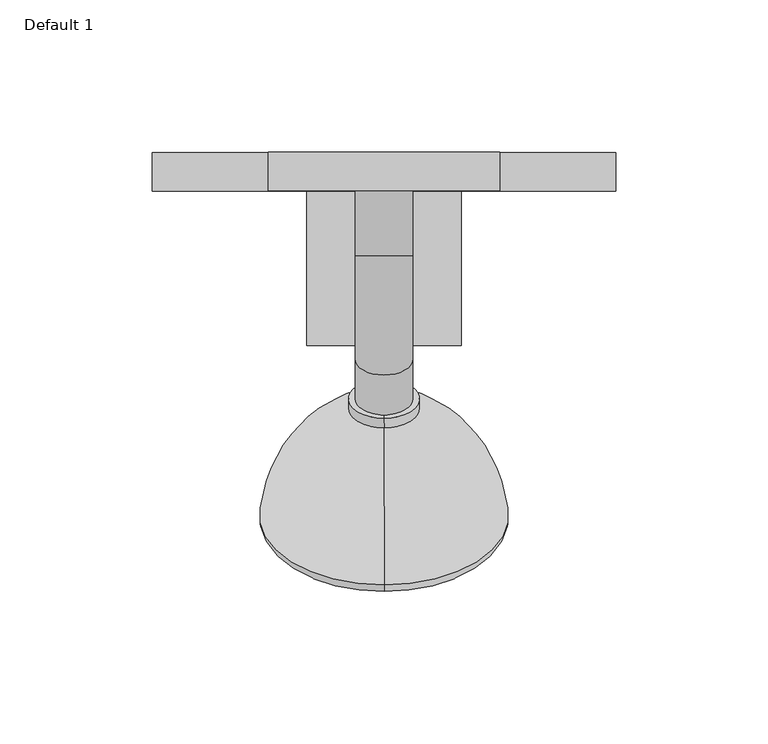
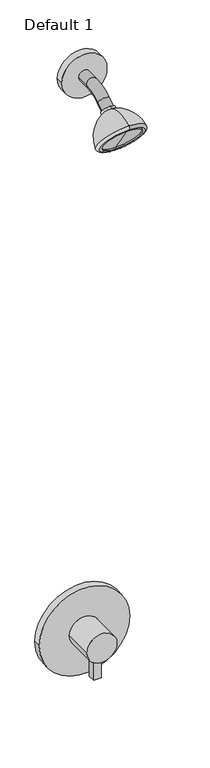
"""IFC4 building model written with IfcOpenShell, lengths in millimetres: flow terminal geometry, Bath-Showerhead : Default 1."""

from ifc_helpers import new_model, si_unit, point, frame, origin, place, context, project, spatial, polyline, circle_curve, ellipse_curve, trimmed, source, transform, mapped, element, save
from ifc_brep_helpers import plane_surface, cylinder_surface, revolved_surface, advanced_brep


def default_1_a9700879(model_context):
    return source(origin(), model_context, "Body", "AdvancedBrep", [
        advanced_brep(
        [(-76.2, -12.7, 838.2), (76.2, -12.7, 838.2), (25.4, -12.7, 838.2), (-25.4, -12.7, 838.2), (-76.2, 0.0, 838.2), (76.2, 0.0, 838.2), (-25.4, -63.5, 838.2), (25.4, -63.5, 838.2), (-6.35, -50.8, 813.6065558), (6.35, -50.8, 813.6065558), (6.35, -38.1, 813.6065558), (-6.35, -38.1, 813.6065558), (-6.35, -50.8, 775.0182977), (6.35, -50.8, 775.0182977), (-6.35, -38.1, 775.0182977), (6.35, -38.1, 775.0182977)],
        [
            (0, 1, circle_curve(frame((0.0, -12.7, 838.2), z_axis=(0.0, -1.0, 0.0), x_axis=(1.0, 0.0, 0.0)), 76.2)),
            (1, 0, circle_curve(frame((0.0, -12.7, 838.2), z_axis=(0.0, -1.0, 0.0), x_axis=(1.0, 0.0, 0.0)), 76.2)),
            (2, 3, circle_curve(frame((0.0, -12.7, 838.2), z_axis=(0.0, 1.0, 0.0), x_axis=(1.0, 0.0, 0.0)), 25.4)),
            (3, 2, circle_curve(frame((0.0, -12.7, 838.2), z_axis=(0.0, 1.0, 0.0), x_axis=(1.0, 0.0, 0.0)), 25.4)),
            (4, 5, circle_curve(frame((0.0, 0.0, 838.2), z_axis=(0.0, 1.0, 0.0), x_axis=(1.0, 0.0, 0.0)), 76.2)),
            (5, 4, circle_curve(frame((0.0, 0.0, 838.2), z_axis=(0.0, 1.0, 0.0), x_axis=(1.0, 0.0, 0.0)), 76.2)),
            (0, 4),
            (5, 1),
            (6, 7, circle_curve(frame((0.0, -63.5, 838.2), z_axis=(0.0, -1.0, 0.0), x_axis=(1.0, 0.0, 0.0)), 25.4)),
            (7, 6, circle_curve(frame((0.0, -63.5, 838.2), z_axis=(0.0, -1.0, 0.0), x_axis=(1.0, 0.0, 0.0)), 25.4)),
            (6, 3),
            (2, 7),
            (8, 9, circle_curve(frame((0.0, -50.8, 838.2), z_axis=(0.0, -1.0, 0.0), x_axis=(1.0, 0.0, 0.0)), 25.4)),
            (9, 10),
            (10, 11, circle_curve(frame((0.0, -38.1, 838.2), z_axis=(0.0, 1.0, 0.0), x_axis=(1.0, 0.0, 0.0)), 25.4)),
            (11, 8),
            (12, 13, circle_curve(frame((0.0, -50.8, 838.2), z_axis=(0.0, -1.0, 0.0), x_axis=(1.0, 0.0, 0.0)), 63.5)),
            (13, 9),
            (8, 12),
            (14, 11),
            (10, 15),
            (15, 14, circle_curve(frame((0.0, -38.1, 838.2), z_axis=(0.0, 1.0, 0.0), x_axis=(1.0, 0.0, 0.0)), 63.5)),
            (12, 14),
            (15, 13),
        ],
        [
            plane_surface(frame((76.2, -12.7, 838.2), z_axis=(0.0, -1.0, 0.0), x_axis=(0.0, 0.0, 1.0))),
            plane_surface(frame((76.2, 0.0, 838.2), z_axis=(0.0, 1.0, 0.0), x_axis=(0.0, 0.0, -1.0))),
            cylinder_surface(frame((0.0, 0.0, 838.2), z_axis=(0.0, -1.0, 0.0), x_axis=(1.0, 0.0, 0.0)), 76.2),
            plane_surface(frame((25.4, -63.5, 838.2), z_axis=(0.0, -1.0, 0.0), x_axis=(0.0, 0.0, 1.0))),
            cylinder_surface(frame((0.0, -12.7, 838.2), z_axis=(0.0, -1.0, 0.0), x_axis=(1.0, 0.0, 0.0)), 25.4),
            plane_surface(frame((63.5, -50.8, 838.2), z_axis=(0.0, -1.0, 0.0), x_axis=(0.0, 0.0, 1.0))),
            plane_surface(frame((63.5, -38.1, 838.2), z_axis=(0.0, 1.0, 0.0), x_axis=(0.0, 0.0, -1.0))),
            cylinder_surface(frame((0.0, -38.1, 838.2), z_axis=(0.0, -1.0, 0.0), x_axis=(1.0, 0.0, 0.0)), 63.5),
            plane_surface(frame((6.35, -50.8, 775.0182977), z_axis=(1.0, 0.0, 0.0), x_axis=(0.0, 1.0, 0.0))),
            plane_surface(frame((-6.35, -50.8, 813.6065558), z_axis=(-1.0, 0.0, 0.0), x_axis=(0.0, 1.0, 0.0))),
        ],
        [
            (0, [[1, 2], [3, 4]]),
            (1, [[5, 6]]),
            (2, [[-1, 7, -6, 8]]),
            (2, [[-2, -8, -5, -7]]),
            (3, [[9, 10]]),
            (4, [[-9, 11, -3, 12], [13, 14, 15, 16]]),
            (4, [[-10, -12, -4, -11]]),
            (5, [[17, 18, -13, 19]]),
            (6, [[20, -15, 21, 22]]),
            (7, [[-17, 23, -22, 24]]),
            (8, [[-18, -24, -21, -14]]),
            (9, [[-19, -16, -20, -23]]),
        ],
    ),
        advanced_brep(
        [(-9.525, -12.7, 1828.8), (-9.525, -34.0057005, 1828.8), (9.525, -34.0057005, 1828.8), (9.525, -12.7, 1828.8), (-9.525, -67.9766443, 1818.373675), (9.525, -67.9766443, 1818.373675), (-9.525, -81.0902593, 1809.4869166), (0.0, -86.4337151, 1817.3719089), (9.525, -81.0902593, 1809.4869166), (0.0, -75.7468035, 1801.6019242), (0.0, -104.6595244, 1753.7128008), (0.0, -141.6275795, 1808.26417), (0.0, -143.7528992, 1811.4003669), (0.0, -102.5342047, 1750.5766039), (0.0, -74.5884034, 1799.8925481), (0.0, -87.5921152, 1819.081285), (0.0, -77.6659645, 1797.8069644), (0.0, -90.6696763, 1816.9957013), (0.0, -96.3795358, 1749.6519992), (0.0, -142.3309126, 1817.4594756), (0.0, -102.7176313, 1755.0287717), (0.0, -139.6856864, 1809.5801409), (0.0, -121.2016589, 1782.3044563), (-38.1, -12.7, 1828.8), (38.1, -12.7, 1828.8), (-38.1, 0.0, 1828.8), (38.1, 0.0, 1828.8)],
        [
            (0, 1),
            (1, 2, circle_curve(frame((0.0, -34.0057005, 1828.8), z_axis=(0.0, 1.0, 0.0), x_axis=(1.0, 0.0, 0.0)), 9.525)),
            (2, 3),
            (3, 0, circle_curve(frame((0.0, -12.7, 1828.8), z_axis=(0.0, -1.0, 0.0), x_axis=(1.0, 0.0, 0.0)), 9.525)),
            (0, 3, circle_curve(frame((0.0, -12.7, 1828.8), z_axis=(0.0, -1.0, 0.0), x_axis=(1.0, 0.0, 0.0)), 9.525)),
            (2, 1, circle_curve(frame((0.0, -34.0057005, 1828.8), z_axis=(0.0, 1.0, 0.0), x_axis=(1.0, 0.0, 0.0)), 9.525)),
            (1, 4, circle_curve(frame((-9.525, -34.0057005, 1768.2449492), z_axis=(1.0, 0.0, 0.0), x_axis=(0.0, 0.0, 1.0)), 60.5550508)),
            (4, 5, circle_curve(frame((0.0, -67.9766443, 1818.373675), z_axis=(0.0, 0.8278207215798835, 0.560992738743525), x_axis=(1.0, 0.0, 0.0)), 9.525)),
            (5, 2, circle_curve(frame((9.525, -34.0057005, 1768.2449492), z_axis=(-1.0, 0.0, 0.0), x_axis=(0.0, 0.0, 1.0)), 60.5550508)),
            (5, 4, circle_curve(frame((0.0, -67.9766443, 1818.373675), z_axis=(0.0, 0.8278207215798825, 0.5609927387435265), x_axis=(1.0, 0.0, 0.0)), 9.525)),
            (4, 6),
            (6, 7, circle_curve(frame((0.0, -81.0902593, 1809.4869166), z_axis=(0.0, 0.8278207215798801, 0.5609927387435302), x_axis=(1.0, 0.0, 0.0)), 9.525)),
            (7, 8, circle_curve(frame((0.0, -81.0902593, 1809.4869166), z_axis=(0.0, 0.8278207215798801, 0.5609927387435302), x_axis=(1.0, 0.0, 0.0)), 9.525)),
            (8, 5),
            (8, 9, circle_curve(frame((0.0, -81.0902593, 1809.4869166), z_axis=(0.0, 0.8278207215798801, 0.5609927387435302), x_axis=(1.0, 0.0, 0.0)), 9.525)),
            (9, 6, circle_curve(frame((0.0, -81.0902593, 1809.4869166), z_axis=(0.0, 0.8278207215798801, 0.5609927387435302), x_axis=(1.0, 0.0, 0.0)), 9.525)),
            (10, 11, circle_curve(frame((0.0, -123.143552, 1780.9884854), z_axis=(0.0, 0.827820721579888, 0.5609927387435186), x_axis=(0.0, -0.5609927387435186, 0.827820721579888)), 32.9487821)),
            (11, 12),
            (12, 13, circle_curve(frame((0.0, -123.143552, 1780.9884854), z_axis=(0.0, -0.827820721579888, -0.5609927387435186), x_axis=(0.0, -0.5609927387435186, 0.827820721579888)), 36.7372798)),
            (13, 10),
            (11, 10, circle_curve(frame((0.0, -123.143552, 1780.9884854), z_axis=(0.0, 0.827820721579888, 0.5609927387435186), x_axis=(0.0, -0.5609927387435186, 0.827820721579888)), 32.9487821)),
            (13, 12, circle_curve(frame((0.0, -123.143552, 1780.9884854), z_axis=(0.0, -0.827820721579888, -0.5609927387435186), x_axis=(0.0, -0.5609927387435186, 0.827820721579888)), 36.7372798)),
            (14, 15, circle_curve(frame((0.0, -81.0902593, 1809.4869166), z_axis=(0.0, 0.827820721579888, 0.5609927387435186), x_axis=(0.0, -0.5609927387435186, 0.827820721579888)), 11.589911)),
            (15, 7),
            (9, 14),
            (15, 14, circle_curve(frame((0.0, -81.0902593, 1809.4869166), z_axis=(0.0, 0.827820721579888, 0.5609927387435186), x_axis=(0.0, -0.5609927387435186, 0.827820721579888)), 11.589911)),
            (14, 16),
            (16, 17, circle_curve(frame((0.0, -84.1678204, 1807.4013329), z_axis=(0.0, 0.827820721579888, 0.5609927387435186), x_axis=(0.0, -0.5609927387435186, 0.827820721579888)), 11.589911)),
            (17, 15),
            (17, 16, circle_curve(frame((0.0, -84.1678204, 1807.4013329), z_axis=(0.0, 0.827820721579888, 0.5609927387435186), x_axis=(0.0, -0.5609927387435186, 0.827820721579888)), 11.589911)),
            (16, 18, circle_curve(frame((0.0, -128.7684193, 1789.9523272), z_axis=(-1.0000000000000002, 0.0, 0.0), x_axis=(0.0, -0.37057429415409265, -0.9288028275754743)), 51.7025745)),
            (18, 19, circle_curve(frame((0.0, -119.3552242, 1783.5557374), z_axis=(0.0, 0.827820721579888, 0.5609927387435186), x_axis=(0.0, -0.5609927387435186, 0.827820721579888)), 40.9554114)),
            (19, 17, circle_curve(frame((0.0, -116.9023416, 1772.4423235), z_axis=(-1.0000000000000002, 0.0, 0.0), x_axis=(0.0, -1.0000000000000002, 0.0)), 51.7025745)),
            (19, 18, circle_curve(frame((0.0, -119.3552242, 1783.5557374), z_axis=(0.0, 0.827820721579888, 0.5609927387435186), x_axis=(0.0, -0.5609927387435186, 0.827820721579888)), 40.9554114)),
            (12, 19, circle_curve(frame((0.0, -140.2494417, 1813.7745697), z_axis=(-1.0000000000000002, 0.0, 0.0), x_axis=(0.0, -1.0000000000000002, 0.0)), 4.2321452)),
            (18, 13, circle_curve(frame((0.0, -99.0307472, 1752.9508067), z_axis=(-1.0000000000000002, 0.0, 0.0), x_axis=(0.0, -0.37057429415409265, -0.9288028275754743)), 4.2321452)),
            (10, 20),
            (20, 21, circle_curve(frame((0.0, -121.2016589, 1782.3044563), z_axis=(0.0, 0.827820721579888, 0.5609927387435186), x_axis=(0.0, -0.5609927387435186, 0.827820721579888)), 32.9487821)),
            (21, 11),
            (21, 20, circle_curve(frame((0.0, -121.2016589, 1782.3044563), z_axis=(0.0, 0.827820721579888, 0.5609927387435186), x_axis=(0.0, -0.5609927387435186, 0.827820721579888)), 32.9487821)),
            (20, 22),
            (22, 21),
            (23, 24, circle_curve(frame((0.0, -12.7, 1828.8), z_axis=(0.0, -1.0, 0.0), x_axis=(1.0, 0.0, 0.0)), 38.1)),
            (24, 23, circle_curve(frame((0.0, -12.7, 1828.8), z_axis=(0.0, -1.0, 0.0), x_axis=(1.0, 0.0, 0.0)), 38.1)),
            (25, 26, circle_curve(frame((0.0, 0.0, 1828.8), z_axis=(0.0, 1.0, 0.0), x_axis=(1.0, 0.0, 0.0)), 38.1)),
            (26, 25, circle_curve(frame((0.0, 0.0, 1828.8), z_axis=(0.0, 1.0, 0.0), x_axis=(1.0, 0.0, 0.0)), 38.1)),
            (23, 25),
            (26, 24),
        ],
        [
            cylinder_surface(frame((0.0, -12.7, 1828.8), z_axis=(0.0, 1.0, 0.0), x_axis=(1.0, 0.0, 0.0)), 9.525),
            revolved_surface(trimmed(ellipse_curve(frame((0.0, -34.0057005, 1828.8), z_axis=(0.0, 1.0, 0.0), x_axis=(1.0, 0.0, 0.0)), 9.525, 9.525), [point((-9.525, -34.0057005, 1828.8))], [point((9.525, -34.0057005, 1828.8))], True, "CARTESIAN"), (0.0, -34.0057005, 1768.2449492), (1.0, 0.0, 0.0)),
            revolved_surface(trimmed(ellipse_curve(frame((0.0, -34.0057005, 1828.8), z_axis=(0.0, 1.0, 0.0), x_axis=(1.0, 0.0, 0.0)), 9.525, 9.525), [point((9.525, -34.0057005, 1828.8))], [point((-9.525, -34.0057005, 1828.8))], True, "CARTESIAN"), (0.0, -34.0057005, 1768.2449492), (1.0, 0.0, 0.0)),
            cylinder_surface(frame((0.0, -67.9766443, 1818.373675), z_axis=(0.0, 0.8278207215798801, 0.5609927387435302), x_axis=(1.0, 0.0, 0.0)), 9.525),
            plane_surface(frame((0.0, -123.143552, 1780.9884854), z_axis=(0.0, -0.827820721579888, -0.5609927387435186), x_axis=(0.0, -0.5609927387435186, 0.827820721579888))),
            plane_surface(frame((0.0, -81.0902593, 1809.4869166), z_axis=(0.0, 0.827820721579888, 0.5609927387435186), x_axis=(0.0, -0.5609927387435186, 0.827820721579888))),
            cylinder_surface(frame((0.0, -81.0902593, 1809.4869166), z_axis=(0.0, -0.827820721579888, -0.5609927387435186), x_axis=(0.0, -0.5609927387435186, 0.827820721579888)), 11.589911),
            revolved_surface(trimmed(ellipse_curve(frame((0.0, -116.9023416, 1772.4423235), z_axis=(1.0000000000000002, 0.0, 0.0), x_axis=(0.0, -1.0000000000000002, 0.0)), 51.7025745, 51.7025745), [point((0.0, -90.6696763, 1816.9957013))], [point((0.0, -142.3309126, 1817.4594756))], True, "CARTESIAN"), (0.0, -81.0902593, 1809.4869166), (0.0, -0.827820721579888, -0.5609927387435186)),
            revolved_surface(trimmed(ellipse_curve(frame((0.0, -140.2494417, 1813.7745697), z_axis=(1.0000000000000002, 0.0, 0.0), x_axis=(0.0, -1.0000000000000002, 0.0)), 4.2321452, 4.2321452), [point((0.0, -142.3309126, 1817.4594756))], [point((0.0, -143.7528992, 1811.4003669))], True, "CARTESIAN"), (0.0, -81.0902593, 1809.4869166), (0.0, -0.827820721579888, -0.5609927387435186)),
            revolved_surface(polyline([(0.0, -141.62757952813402, 1808.2641700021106), (0.0, -139.68568634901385, 1809.5801408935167)]), (0.0, -81.0902593, 1809.4869166), (0.0, -0.827820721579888, -0.5609927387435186)),
            plane_surface(frame((0.0, -121.2016589, 1782.3044563), z_axis=(0.0, -0.827820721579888, -0.5609927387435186), x_axis=(0.0, -0.5609927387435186, 0.827820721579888))),
            plane_surface(frame((38.1, -12.7, 1828.8), z_axis=(0.0, -1.0, 0.0), x_axis=(0.0, 0.0, 1.0))),
            plane_surface(frame((38.1, 0.0, 1828.8), z_axis=(0.0, 1.0, 0.0), x_axis=(0.0, 0.0, -1.0))),
            cylinder_surface(frame((0.0, 0.0, 1828.8), z_axis=(0.0, -1.0, 0.0), x_axis=(1.0, 0.0, 0.0)), 38.1),
        ],
        [
            (0, [[1, 2, 3, 4]]),
            (0, [[-1, 5, -3, 6]]),
            (1, [[-2, 7, 8, 9]]),
            (2, [[-6, -9, 10, -7]]),
            (3, [[-8, 11, 12, 13, 14]]),
            (3, [[-10, -14, 15, 16, -11]]),
            (4, [[17, 18, 19, 20]]),
            (4, [[-18, 21, -20, 22]]),
            (5, [[23, 24, -12, -16, 25]]),
            (5, [[26, -25, -15, -13, -24]]),
            (6, [[-23, 27, 28, 29]]),
            (6, [[-26, -29, 30, -27]]),
            (7, [[-28, 31, 32, 33]]),
            (7, [[-30, -33, 34, -31]]),
            (8, [[-19, 35, -32, 36]]),
            (8, [[-22, -36, -34, -35]]),
            (9, [[-17, 37, 38, 39]]),
            (9, [[-21, -39, 40, -37]]),
            (10, [[-38, 41, 42]]),
            (10, [[-40, -42, -41]]),
            (11, [[43, 44], [-4, -5]]),
            (12, [[45, 46]]),
            (13, [[-43, 47, -46, 48]]),
            (13, [[-44, -48, -45, -47]]),
        ],
    ),
    ])


if __name__ == "__main__":
    model = new_model("IFC4")
    model_context = context("Model", 3, world=origin())
    ifc_project = project(units=[si_unit("LENGTHUNIT", "METRE", prefix="MILLI")], contexts=[model_context])
    site = spatial("IfcSite", under=ifc_project)
    building = spatial("IfcBuilding", under=site)
    placement = place(None, origin())
    default_1_shape = default_1_a9700879(model_context)
    element("IfcFlowTerminal", 1, ObjectType="Bath-Showerhead : Default 1", at=placement, inside=building, context=model_context, shape_type="MappedRepresentation", body=[
        mapped(default_1_shape, transform((0.0, 0.0, 0.0), x_axis=(1.0, 0.0, 0.0), y_axis=(0.0, 1.0, 0.0), z_axis=(0.0, 0.0, 1.0))),
    ])
    save(model, "model.ifc")
